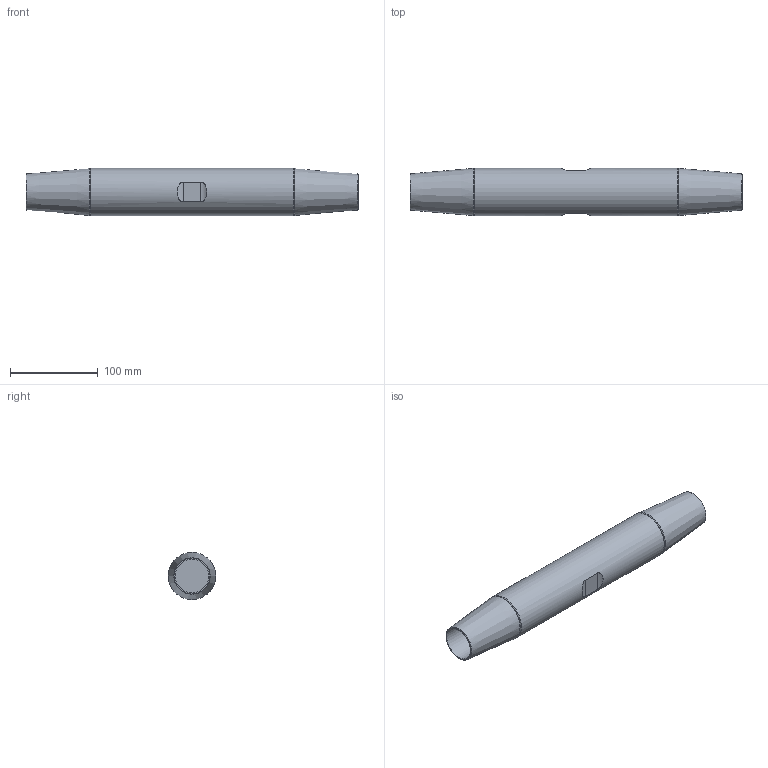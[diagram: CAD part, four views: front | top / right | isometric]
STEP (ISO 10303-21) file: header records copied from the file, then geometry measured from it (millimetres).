
FILE_DESCRIPTION(/* description */ (''),/* implementation_level */ '2;1');
FILE_NAME(/* name */ 'G:\Engineering\700 CAD\Internet-PX-1-step-igs-dxf\520-MUF-Arbeitsdateien\520-036-MUF.stp',/* time_stamp */ '2020-06-30T13:16:32+02:00',/* author */ ('schwarz'),/* organization */ (''),/* preprocessor_version */ 'ST-DEVELOPER v16.1',/* originating_system */ 'Autodesk Inventor 2016',/* authorisation */ '');
FILE_SCHEMA (('AUTOMOTIVE_DESIGN { 1 0 10303 214 3 1 1 }'));
Length unit declared in the file: centimetre
Products named in the file (1): Zusammenbau Muffe 520 036 Kunde
Bounding box: 378 x 54 x 54 mm (x, y, z)
Volume: 665582.2 mm3; surface area: 77247.3 mm2
Topology: 1 solids, 1 shells, 21 faces, 42 edges, 26 vertices
Faces by surface type: cone 8, cylinder 7, plane 6
Full cylindrical faces by diameter (mm): 38 x2, 54 x1
Entity records: 613 total; most frequent: CARTESIAN_POINT 166, DIRECTION 80, ORIENTED_EDGE 60, EDGE_LOOP 36, AXIS2_PLACEMENT_3D 36, EDGE_CURVE 30, VERTEX_POINT 26, STYLED_ITEM 22
